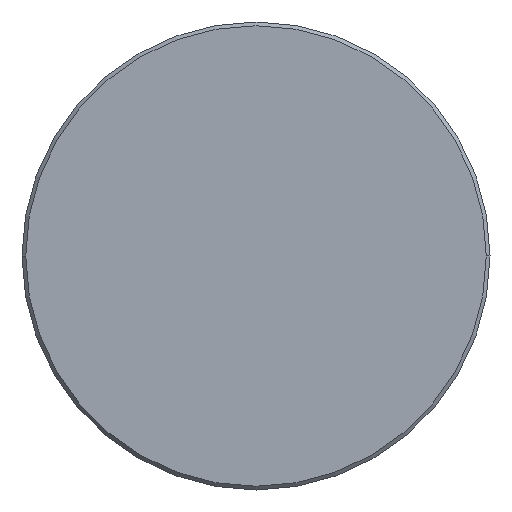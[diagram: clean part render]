
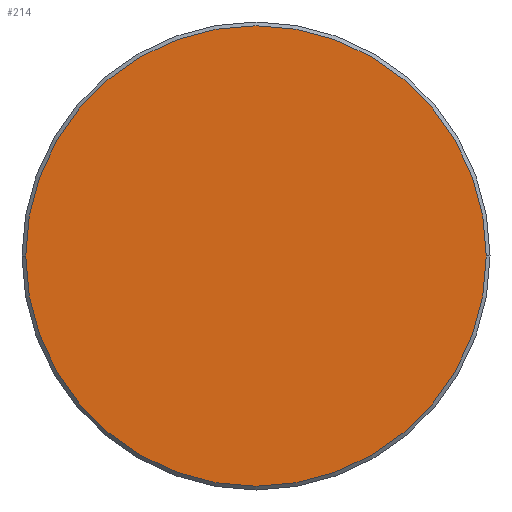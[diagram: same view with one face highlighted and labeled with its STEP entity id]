
A CAD part, left-side view. The second image highlights one B-rep face of the part: STEP entity #214.
In plain terms, the highlighted planar face has unit normal (-1, 0, 0).
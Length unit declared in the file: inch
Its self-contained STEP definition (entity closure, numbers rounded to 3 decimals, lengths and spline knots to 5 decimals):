
#3 = FACE_OUTER_BOUND ( 'NONE', #314, .T. ) ;
#14 = DIRECTION ( 'NONE',  ( -1., 0., 0. ) ) ;
#27 = AXIS2_PLACEMENT_3D ( 'NONE', #365, #341, #277 ) ;
#40 = EDGE_CURVE ( 'NONE', #98, #268, #381, .T. ) ;
#65 = CARTESIAN_POINT ( 'NONE',  ( 0., 0., 0. ) ) ;
#96 = DIRECTION ( 'NONE',  ( 0., -1., 0. ) ) ;
#98 = VERTEX_POINT ( 'NONE', #241 ) ;
#104 = PLANE ( 'NONE',  #373 ) ;
#142 = DIRECTION ( 'NONE',  ( -1., 0., 0. ) ) ;
#150 = ORIENTED_EDGE ( 'NONE', *, *, #219, .T. ) ;
#182 = ORIENTED_EDGE ( 'NONE', *, *, #40, .T. ) ;
#192 = DIRECTION ( 'NONE',  ( 0., -1., 0. ) ) ;
#214 = ADVANCED_FACE ( 'NONE', ( #3 ), #104, .T. ) ;
#219 = EDGE_CURVE ( 'NONE', #268, #98, #301, .T. ) ;
#241 = CARTESIAN_POINT ( 'NONE',  ( 0., -0.246, 0. ) ) ;
#244 = CARTESIAN_POINT ( 'NONE',  ( 0., 0.246, 0. ) ) ;
#247 = CARTESIAN_POINT ( 'NONE',  ( 0., 0., 0. ) ) ;
#268 = VERTEX_POINT ( 'NONE', #244 ) ;
#277 = DIRECTION ( 'NONE',  ( 0., -1., 0. ) ) ;
#301 = CIRCLE ( 'NONE', #27, 0.246 ) ;
#314 = EDGE_LOOP ( 'NONE', ( #150, #182 ) ) ;
#341 = DIRECTION ( 'NONE',  ( -1., 0., 0. ) ) ;
#346 = AXIS2_PLACEMENT_3D ( 'NONE', #65, #142, #96 ) ;
#365 = CARTESIAN_POINT ( 'NONE',  ( 0., 0., 0. ) ) ;
#373 = AXIS2_PLACEMENT_3D ( 'NONE', #247, #14, #192 ) ;
#381 = CIRCLE ( 'NONE', #346, 0.246 ) ;
